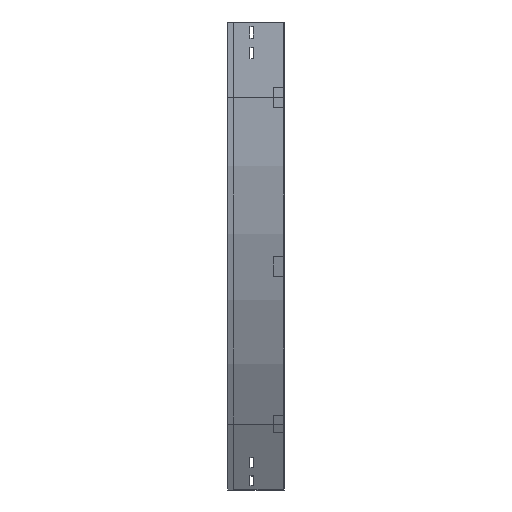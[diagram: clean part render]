
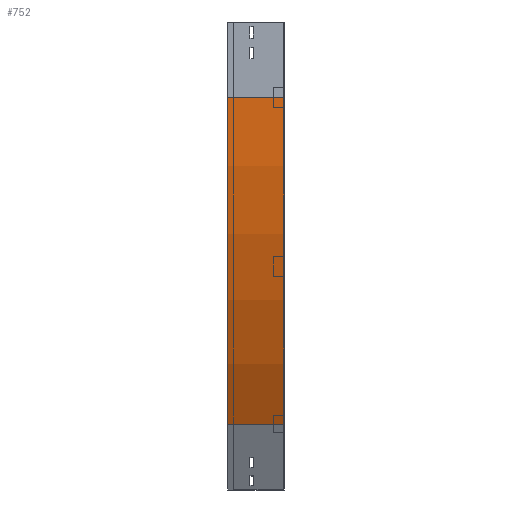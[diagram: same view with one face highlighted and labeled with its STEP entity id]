
A CAD part, left-side view. The second image highlights one B-rep face of the part: STEP entity #752.
In plain terms, the highlighted cylindrical face has radius 1300 mm (diameter 2600 mm), a partial arc.
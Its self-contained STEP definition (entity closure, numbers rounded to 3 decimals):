
#20 = CYLINDRICAL_SURFACE ( 'NONE', #1525, 1300. ) ;
#89 = AXIS2_PLACEMENT_3D ( 'NONE', #194, #2289, #3807 ) ;
#190 = LINE ( 'NONE', #3496, #2739 ) ;
#194 = CARTESIAN_POINT ( 'NONE',  ( 1300., 0., -150. ) ) ;
#223 = DIRECTION ( 'NONE',  ( 0., -1., 0. ) ) ;
#283 = EDGE_LOOP ( 'NONE', ( #1843, #3207, #3529, #3548 ) ) ;
#398 = DIRECTION ( 'NONE',  ( 0., -1., 0. ) ) ;
#622 = DIRECTION ( 'NONE',  ( -1., 0., 0. ) ) ;
#752 = ADVANCED_FACE ( 'NONE', ( #1269 ), #20, .T. ) ;
#947 = CIRCLE ( 'NONE', #2057, 1300. ) ;
#978 = DIRECTION ( 'NONE',  ( 0., -1., 0. ) ) ;
#1063 = EDGE_CURVE ( 'NONE', #3172, #1095, #947, .T. ) ;
#1095 = VERTEX_POINT ( 'NONE', #3298 ) ;
#1266 = CIRCLE ( 'NONE', #89, 1300. ) ;
#1269 = FACE_OUTER_BOUND ( 'NONE', #283, .T. ) ;
#1295 = LINE ( 'NONE', #1933, #1370 ) ;
#1370 = VECTOR ( 'NONE', #398, 1000. ) ;
#1492 = CARTESIAN_POINT ( 'NONE',  ( 174.167, 0., -800. ) ) ;
#1525 = AXIS2_PLACEMENT_3D ( 'NONE', #1825, #3069, #3319 ) ;
#1825 = CARTESIAN_POINT ( 'NONE',  ( 1300., 0., -150. ) ) ;
#1843 = ORIENTED_EDGE ( 'NONE', *, *, #2854, .F. ) ;
#1887 = VERTEX_POINT ( 'NONE', #3270 ) ;
#1929 = VERTEX_POINT ( 'NONE', #1492 ) ;
#1933 = CARTESIAN_POINT ( 'NONE',  ( 0., 0., -150. ) ) ;
#2057 = AXIS2_PLACEMENT_3D ( 'NONE', #2692, #978, #622 ) ;
#2289 = DIRECTION ( 'NONE',  ( 0., -1., 0. ) ) ;
#2692 = CARTESIAN_POINT ( 'NONE',  ( 1300., 112.5, -150. ) ) ;
#2739 = VECTOR ( 'NONE', #223, 1000. ) ;
#2854 = EDGE_CURVE ( 'NONE', #1887, #1929, #1266, .T. ) ;
#3069 = DIRECTION ( 'NONE',  ( 0., -1., 0. ) ) ;
#3077 = CARTESIAN_POINT ( 'NONE',  ( 0., 112.5, -150. ) ) ;
#3172 = VERTEX_POINT ( 'NONE', #3077 ) ;
#3207 = ORIENTED_EDGE ( 'NONE', *, *, #3552, .F. ) ;
#3253 = EDGE_CURVE ( 'NONE', #1095, #1929, #190, .T. ) ;
#3270 = CARTESIAN_POINT ( 'NONE',  ( 0., 0., -150. ) ) ;
#3298 = CARTESIAN_POINT ( 'NONE',  ( 174.167, 112.5, -800. ) ) ;
#3319 = DIRECTION ( 'NONE',  ( 0., 0., -1. ) ) ;
#3496 = CARTESIAN_POINT ( 'NONE',  ( 174.167, 0., -800. ) ) ;
#3529 = ORIENTED_EDGE ( 'NONE', *, *, #1063, .T. ) ;
#3548 = ORIENTED_EDGE ( 'NONE', *, *, #3253, .T. ) ;
#3552 = EDGE_CURVE ( 'NONE', #3172, #1887, #1295, .T. ) ;
#3807 = DIRECTION ( 'NONE',  ( -1., 0., 0. ) ) ;
